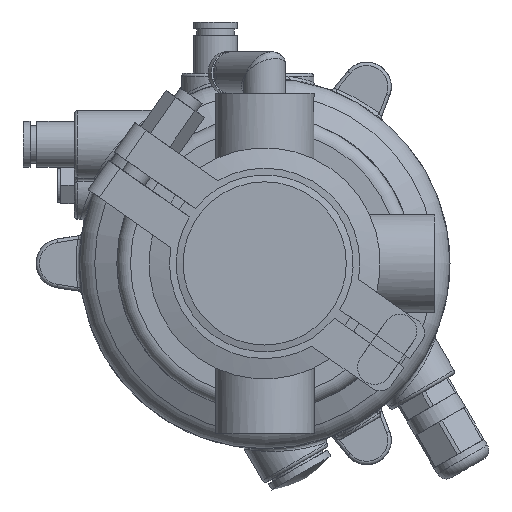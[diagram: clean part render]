
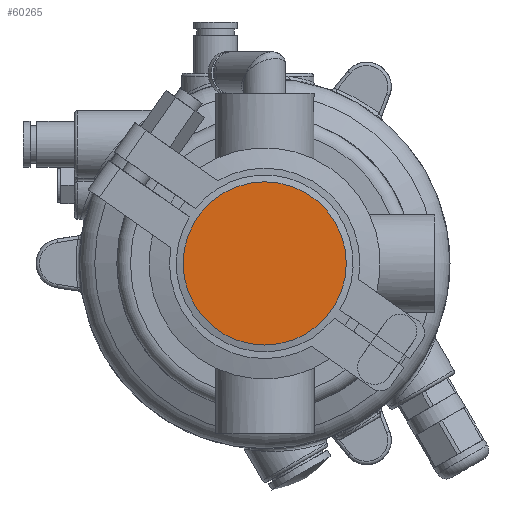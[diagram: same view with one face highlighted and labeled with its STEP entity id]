
A CAD part, front view. The second image highlights one B-rep face of the part: STEP entity #60265.
In plain terms, the highlighted planar face has unit normal (0, -1, 0).
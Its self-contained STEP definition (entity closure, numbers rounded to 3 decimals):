
#2047 = VERTEX_POINT ( 'NONE', #11797 ) ;
#2795 = AXIS2_PLACEMENT_3D ( 'NONE', #11492, #48791, #40762 ) ;
#11492 = CARTESIAN_POINT ( 'NONE',  ( 0., 0., 0. ) ) ;
#11797 = CARTESIAN_POINT ( 'NONE',  ( 0., 0., 24. ) ) ;
#13503 = CIRCLE ( 'NONE', #2795, 24. ) ;
#18039 = EDGE_LOOP ( 'NONE', ( #19655 ) ) ;
#18572 = FACE_OUTER_BOUND ( 'NONE', #18039, .T. ) ;
#19655 = ORIENTED_EDGE ( 'NONE', *, *, #40508, .F. ) ;
#26548 = DIRECTION ( 'NONE',  ( 0., -1., 0. ) ) ;
#36728 = PLANE ( 'NONE',  #37827 ) ;
#37827 = AXIS2_PLACEMENT_3D ( 'NONE', #45539, #26548, #60516 ) ;
#40508 = EDGE_CURVE ( 'NONE', #2047, #2047, #13503, .T. ) ;
#40762 = DIRECTION ( 'NONE',  ( 0., 0., 1. ) ) ;
#45539 = CARTESIAN_POINT ( 'NONE',  ( -24., 0., 0. ) ) ;
#48791 = DIRECTION ( 'NONE',  ( 0., 1., 0. ) ) ;
#60265 = ADVANCED_FACE ( 'NONE', ( #18572 ), #36728, .T. ) ;
#60516 = DIRECTION ( 'NONE',  ( 0., 0., -1. ) ) ;
